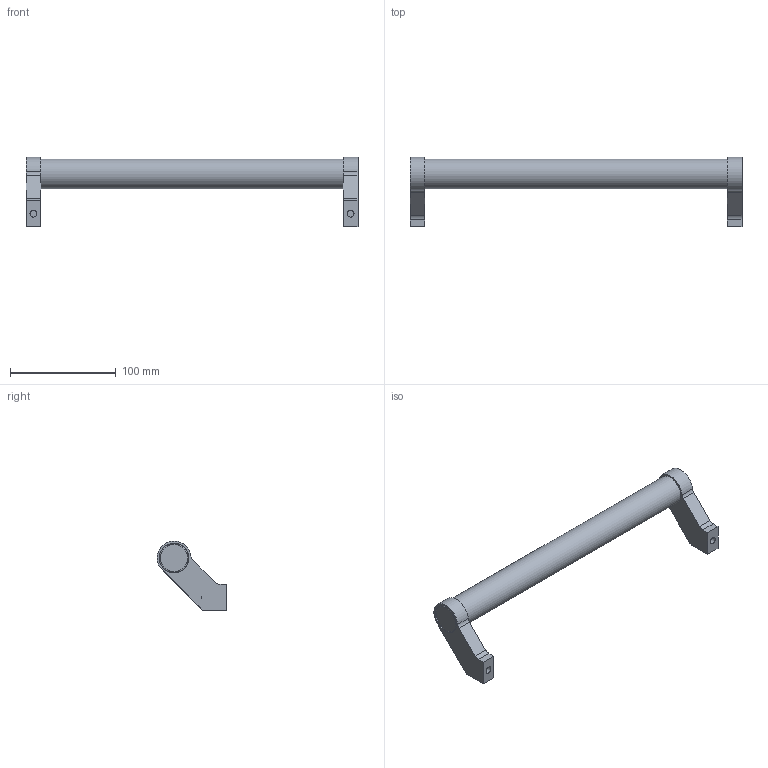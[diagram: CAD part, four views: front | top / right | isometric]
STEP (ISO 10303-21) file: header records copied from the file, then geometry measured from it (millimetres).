
FILE_DESCRIPTION( ( 'STEP AP203' ), '1' );
FILE_NAME( 'C:/Temp/Ganter_Step_05_03_2020/data/1_2/gn333/Tubular handle GN 333-28-300-B-EL.stp', '2020-03-05T10:16:31', ( 'License CC BY-ND 4.0' ), ( 'CADENAS' ), ' ', 'PARTsolutions', ' ' );
FILE_SCHEMA( ( 'CONFIG_CONTROL_DESIGN' ) );
Length unit declared in the file: millimetre
Products named in the file (1): _Tubular handle GN 333-28-300-B-EL
Bounding box: 314 x 65.95 x 65.97 mm (x, y, z)
Volume: 235402.7 mm3; surface area: 42016.2 mm2
Topology: 1 solids, 1 shells, 53 faces, 115 edges, 76 vertices
Faces by surface type: plane 32, cylinder 19, torus 2
Full cylindrical faces by diameter (mm): 6.5 x2, 11 x2, 11.4 x2, 12 x2, 28 x3
Entity records: 1424 total; most frequent: CARTESIAN_POINT 272, DIRECTION 240, ORIENTED_EDGE 196, EDGE_CURVE 98, AXIS2_PLACEMENT_3D 96, EDGE_LOOP 76, VERTEX_POINT 70, FACE_OUTER_BOUND 64
